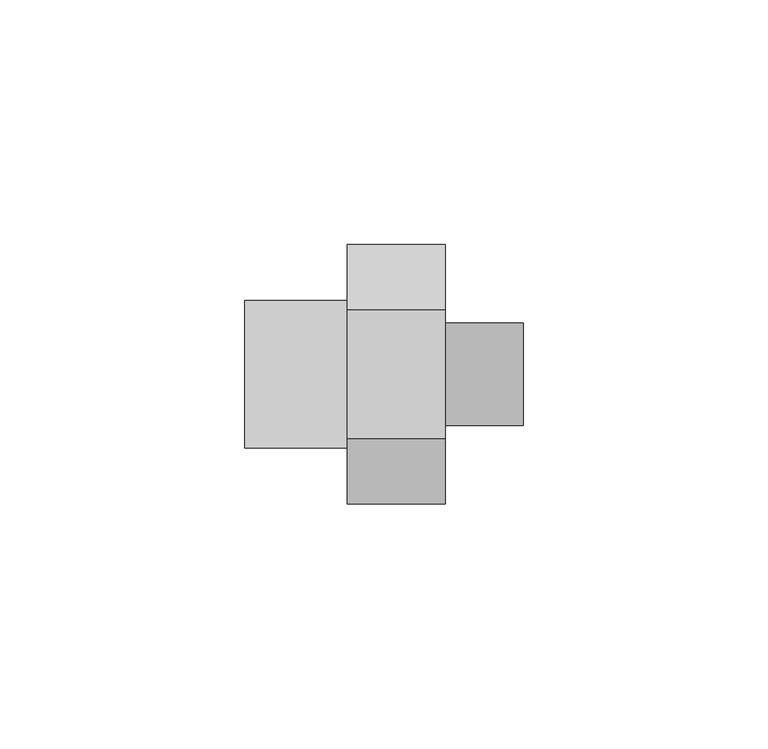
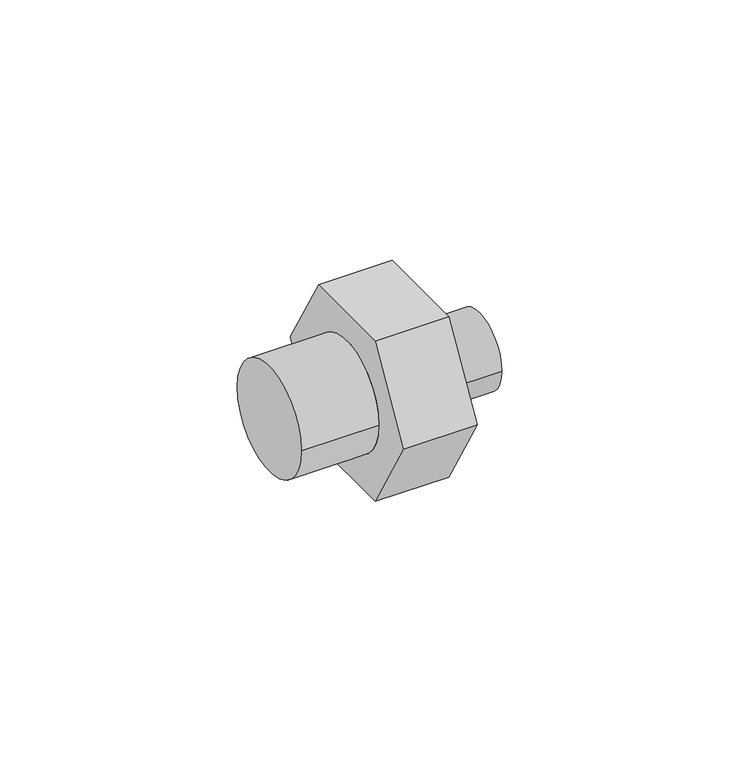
"""IFC4 building model written with IfcOpenShell, lengths in millimetres: pipe fitting geometry, 01011197 : Mamelons doubles réduction."""

from ifc_helpers import new_model, si_unit, frame, origin, place, context, project, spatial, circle_curve, source, transform, mapped, element, save
from ifc_brep_helpers import plane_surface, cylinder_surface, advanced_brep


def pipe_fitting_465ee4c9(model_context):
    return source(origin(), model_context, "Body", "AdvancedBrep", [
        advanced_brep(
        [(41.0, -13.2790562, 23.0), (41.0, -26.5581124, 0.0), (41.0, -13.2790562, -23.0), (41.0, 13.2790562, -23.0), (41.0, 26.5581124, 0.0), (41.0, 13.2790562, 23.0), (41.0, -10.4775, 0.0), (41.0, 10.4775, 0.0), (21.0, -13.2790562, 23.0), (21.0, 13.2790562, 23.0), (21.0, 26.5581124, 0.0), (21.0, 13.2790562, -23.0), (21.0, -13.2790562, -23.0), (21.0, -26.5581124, 0.0), (21.0, 15.08125, 0.0), (21.0, -15.08125, 0.0), (57.0, -10.4775, 0.0), (57.0, 10.4775, 0.0), (0.0, 15.08125, 0.0), (0.0, -15.08125, 0.0)],
        [
            (0, 1),
            (1, 2),
            (2, 3),
            (3, 4),
            (4, 5),
            (5, 0),
            (6, 7, circle_curve(frame((41.0, 0.0, 0.0), z_axis=(-1.0, 0.0, 0.0), x_axis=(0.0, 1.0, 0.0)), 10.4775)),
            (7, 6, circle_curve(frame((41.0, 0.0, 0.0), z_axis=(-1.0, 0.0, 0.0), x_axis=(0.0, 1.0, 0.0)), 10.4775)),
            (8, 9),
            (9, 10),
            (10, 11),
            (11, 12),
            (12, 13),
            (13, 8),
            (14, 15, circle_curve(frame((21.0, 0.0, 0.0), z_axis=(1.0, 0.0, 0.0), x_axis=(0.0, -1.0, 0.0)), 15.08125)),
            (15, 14, circle_curve(frame((21.0, 0.0, 0.0), z_axis=(1.0, 0.0, 0.0), x_axis=(0.0, -1.0, 0.0)), 15.08125)),
            (0, 8),
            (13, 1),
            (12, 2),
            (11, 3),
            (10, 4),
            (9, 5),
            (16, 17, circle_curve(frame((57.0, 0.0, 0.0), z_axis=(1.0, 0.0, 0.0), x_axis=(0.0, 1.0, 0.0)), 10.4775)),
            (17, 16, circle_curve(frame((57.0, 0.0, 0.0), z_axis=(1.0, 0.0, 0.0), x_axis=(0.0, 1.0, 0.0)), 10.4775)),
            (17, 7),
            (6, 16),
            (18, 19, circle_curve(frame((0.0, 0.0, 0.0), z_axis=(-1.0, 0.0, 0.0), x_axis=(0.0, -1.0, 0.0)), 15.08125)),
            (19, 18, circle_curve(frame((0.0, 0.0, 0.0), z_axis=(-1.0, 0.0, 0.0), x_axis=(0.0, -1.0, 0.0)), 15.08125)),
            (19, 15),
            (14, 18),
        ],
        [
            plane_surface(frame((41.0, -13.2790562, 23.0), z_axis=(1.0, 0.0, 0.0), x_axis=(0.0, -0.5000000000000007, -0.8660254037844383))),
            plane_surface(frame((21.0, -13.2790562, 23.0), z_axis=(-1.0, 0.0, 0.0), x_axis=(0.0, 0.5000000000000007, 0.8660254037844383))),
            plane_surface(frame((41.0, -13.2790562, 23.0), z_axis=(0.0, -0.8660254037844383, 0.5000000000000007), x_axis=(-1.0, 0.0, 0.0))),
            plane_surface(frame((41.0, -26.5581124, 0.0), z_axis=(0.0, -0.866025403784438, -0.5000000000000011), x_axis=(-1.0, 0.0, 0.0))),
            plane_surface(frame((41.0, -13.2790562, -23.0), z_axis=(0.0, 0.0, -1.0), x_axis=(-1.0, 0.0, 0.0))),
            plane_surface(frame((41.0, 13.2790562, -23.0), z_axis=(0.0, 0.8660254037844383, -0.5000000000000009), x_axis=(-1.0, 0.0, 0.0))),
            plane_surface(frame((41.0, 26.5581124, 0.0), z_axis=(0.0, 0.8660254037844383, 0.5000000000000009), x_axis=(-1.0, 0.0, 0.0))),
            plane_surface(frame((41.0, 13.2790562, 23.0), z_axis=(0.0, 0.0, 1.0), x_axis=(-1.0, 0.0, 0.0))),
            plane_surface(frame((57.0, 0.0, 0.0), z_axis=(1.0, 0.0, 0.0), x_axis=(0.0, 0.0, 1.0))),
            cylinder_surface(frame((41.0, 0.0, 0.0), z_axis=(-1.0, 0.0, 0.0), x_axis=(0.0, 1.0, 0.0)), 10.4775),
            plane_surface(frame((0.0, 0.0, 0.0), z_axis=(-1.0, 0.0, 0.0), x_axis=(0.0, 0.0, 1.0))),
            cylinder_surface(frame((21.0, 0.0, 0.0), z_axis=(1.0, 0.0, 0.0), x_axis=(0.0, -1.0, 0.0)), 15.08125),
        ],
        [
            (0, [[1, 2, 3, 4, 5, 6], [7, 8]]),
            (1, [[9, 10, 11, 12, 13, 14], [15, 16]]),
            (2, [[-1, 17, -14, 18]]),
            (3, [[-2, -18, -13, 19]]),
            (4, [[-3, -19, -12, 20]]),
            (5, [[-4, -20, -11, 21]]),
            (6, [[-5, -21, -10, 22]]),
            (7, [[-6, -22, -9, -17]]),
            (8, [[23, 24]]),
            (9, [[-24, 25, -7, 26]]),
            (9, [[-23, -26, -8, -25]]),
            (10, [[27, 28]]),
            (11, [[-28, 29, -15, 30]]),
            (11, [[-27, -30, -16, -29]]),
        ],
    ),
    ])


if __name__ == "__main__":
    model = new_model("IFC4")
    model_context = context("Model", 3, world=origin())
    ifc_project = project(units=[si_unit("LENGTHUNIT", "METRE", prefix="MILLI")], contexts=[model_context])
    site = spatial("IfcSite", under=ifc_project)
    building = spatial("IfcBuilding", under=site)
    placement = place(None, origin())
    pipe_fitting_shape = pipe_fitting_465ee4c9(model_context)
    element("IfcPipeFitting", 1, ObjectType="01011197 : Mamelons doubles réduction", at=placement, inside=building, context=model_context, shape_type="MappedRepresentation", body=[
        mapped(pipe_fitting_shape, transform((0.0, 0.0, 0.0), x_axis=(1.0, 0.0, 0.0), y_axis=(0.0, 1.0, 0.0), z_axis=(0.0, 0.0, 1.0))),
    ])
    save(model, "model.ifc")
